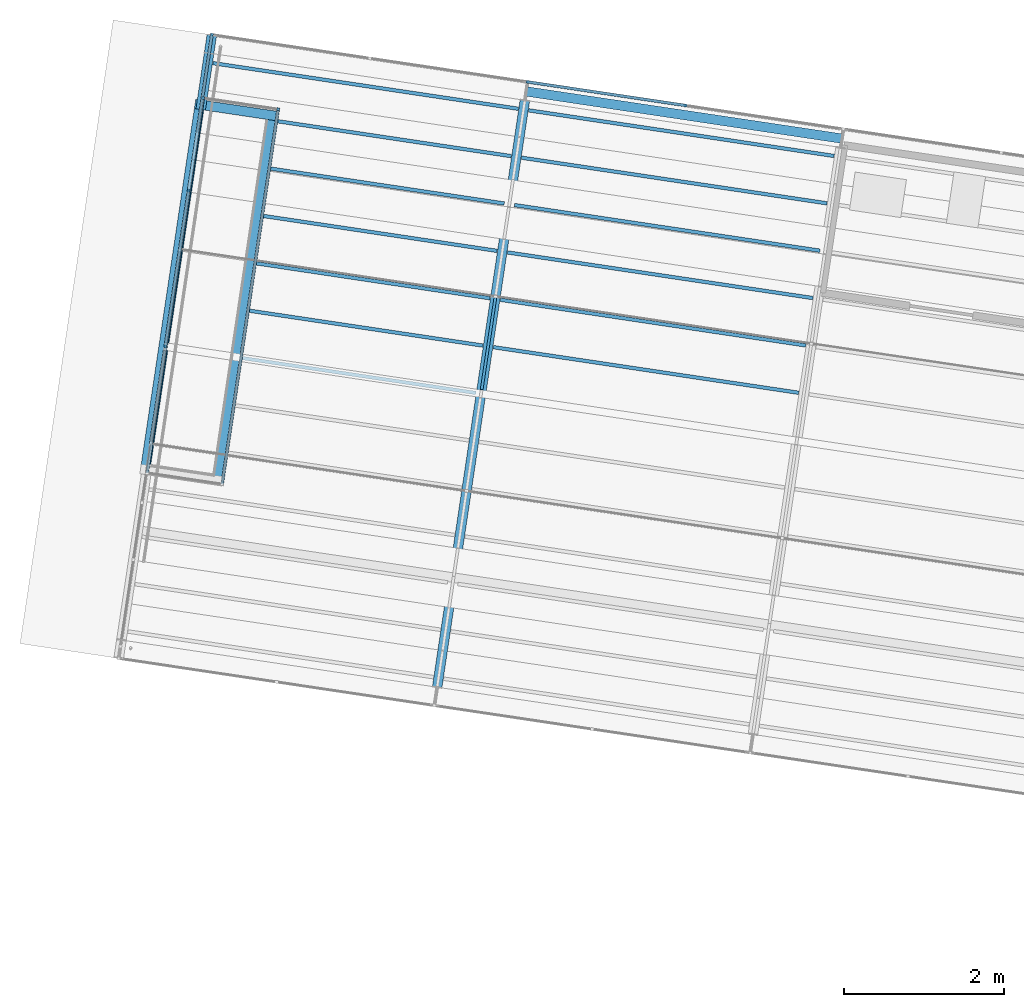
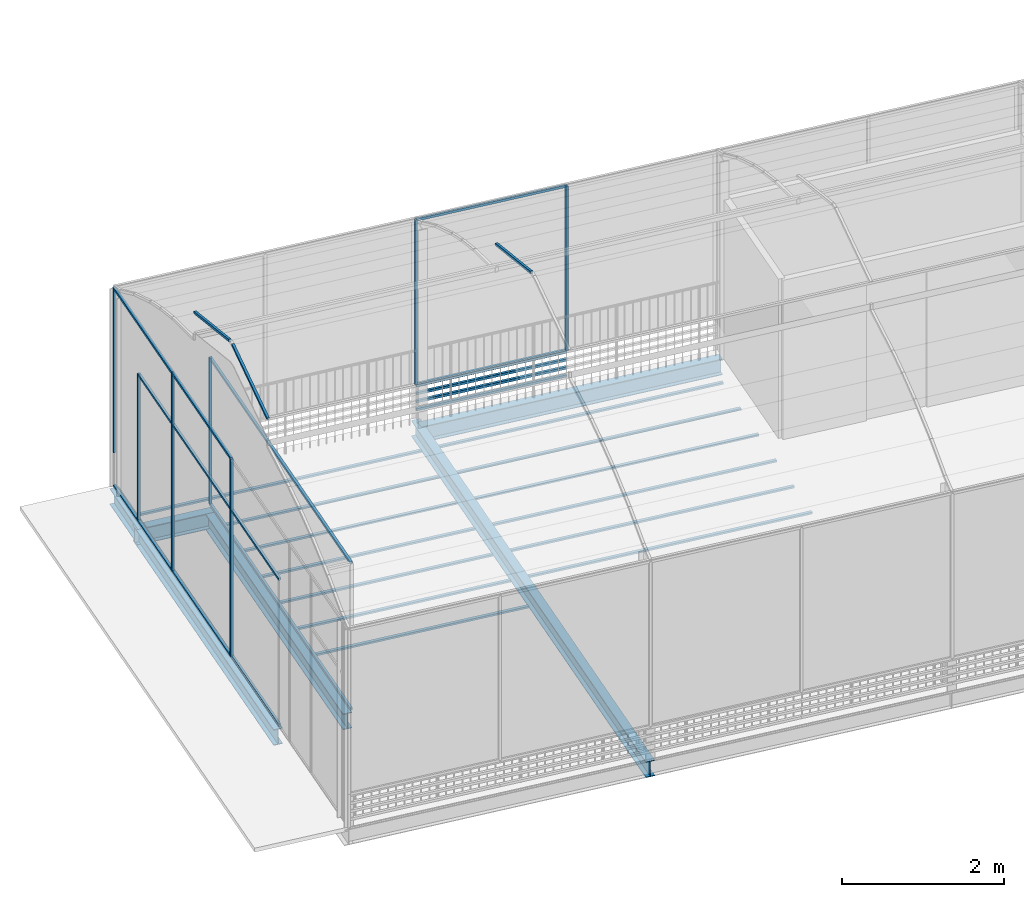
# One storey, part 7 of 34: 30 members, 19 beams, 1 element without a shape of its own.
"""IFC4 building model written with IfcOpenShell, lengths in metres."""

from ifc_helpers import new_model, si_unit, direction, frame, origin_with_axes, place, context, subcontext, project, spatial, polyline, rectangle, i_section, outline, extrude, material, material_profile, profile_set, profile_usage, type_object, element, aggregate, save


model = new_model("IFC4")

# Units and contexts
model_context = context("Model", 3, precision=1e-05, world=origin_with_axes(), true_north=direction((0.0, 1.0)))
body_context = subcontext(model_context, "Body", "Model", "MODEL_VIEW")
ifc_project = project(units=[si_unit("AREAUNIT", "SQUARE_METRE"), si_unit("VOLUMEUNIT", "CUBIC_METRE"), si_unit("LENGTHUNIT", "METRE")], contexts=[model_context])

# Site, building, storey
site_placement = place(None, origin_with_axes())
site = spatial("IfcSite", under=ifc_project, at=site_placement, Name="Lares · Rua das Mercês · artigo 4771")
building_placement = place(site_placement, frame((15.0, 9.7, 14.65), z_axis=(0.0, 0.0, 1.0), x_axis=(0.989015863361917, -0.147809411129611, 0.0)))
building = spatial("IfcBuilding", under=site, at=building_placement, Name="Casa Sobreposta")
storey_placement = place(building_placement, frame((0.0, 0.0, 3.24), z_axis=(0.0, 0.0, 1.0), x_axis=(1.0, 0.0, 0.0)))
storey = spatial("IfcBuildingStorey", under=building, at=storey_placement, Name="01 · Jardim de inverno", Elevation=17.89)

# Beams
ifc_material_1 = material(Name="Aço pintado / Stahl lackiert", Category="steel")
ifc_material_profile_1 = material_profile(ifc_material_1, i_section(OverallWidth=0.12, OverallDepth=0.24, WebThickness=0.0062, FlangeThickness=0.0098))
ifc_profile_set_1 = profile_set([ifc_material_profile_1], Name="IPE240")
ifc_profile_usage_1 = profile_usage(ifc_profile_set_1)
beam_type = type_object("IfcBeamType", Name="IPE240 / steel", PredefinedType="NOTDEFINED", material=ifc_profile_set_1)
beam_1_placement = place(storey_placement, frame((4.0, 6.28, -0.152), z_axis=(1.0, 0.0, 0.0), x_axis=(0.0, -1.0, 0.0)))
element("IfcBeam", 1, at=beam_1_placement, inside=storey, type_object=beam_type, material=ifc_profile_usage_1, Name="Viga longitudinal 4 / 6.28", context=body_context, shape_type="SweptSolid", body=[
    extrude(i_section(OverallWidth=0.12, OverallDepth=0.24, WebThickness=0.0062, FlangeThickness=0.0098), origin_with_axes(), (0.0, 0.0, 1.0), 4.0),
])
ifc_profile_usage_2 = profile_usage(ifc_profile_set_1)
beam_2_placement = place(storey_placement, frame((0.0, 5.4525, -0.152), z_axis=(0.0, 1.0, 0.0), x_axis=(1.0, 0.0, 0.0)))
element("IfcBeam", 2, at=beam_2_placement, inside=storey, type_object=beam_type, material=ifc_profile_usage_2, Name="Viga transversal eixo 0", context=body_context, shape_type="SweptSolid", body=[
    extrude(i_section(OverallWidth=0.12, OverallDepth=0.24, WebThickness=0.0062, FlangeThickness=0.0098), origin_with_axes(), (0.0, 0.0, 1.0), 0.947500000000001),
])
ifc_profile_usage_3 = profile_usage(ifc_profile_set_1)
beam_3_placement = place(storey_placement, frame((4.0, -1.5, -0.152), z_axis=(0.0, 1.0, 0.0), x_axis=(1.0, 0.0, 0.0)))
element("IfcBeam", 3, at=beam_3_placement, inside=storey, type_object=beam_type, material=ifc_profile_usage_3, Name="Viga transversal eixo 4", context=body_context, shape_type="SweptSolid", body=[
    extrude(i_section(OverallWidth=0.12, OverallDepth=0.24, WebThickness=0.0062, FlangeThickness=0.0098), origin_with_axes(), (0.0, 0.0, 1.0), 7.9),
])
ifc_profile_usage_4 = profile_usage(ifc_profile_set_1)
beam_4_placement = place(storey_placement, frame((-0.02, 0.8275, -0.152), z_axis=(0.0, 1.0, 0.0), x_axis=(1.0, 0.0, 0.0)))
element("IfcBeam", 4, at=beam_4_placement, inside=storey, type_object=beam_type, material=ifc_profile_usage_4, Name="Longarina do vão 1", context=body_context, shape_type="SweptSolid", body=[
    extrude(i_section(OverallWidth=0.12, OverallDepth=0.24, WebThickness=0.0062, FlangeThickness=0.0098), origin_with_axes(), (0.0, 0.0, 1.0), 4.745),
])
ifc_profile_usage_5 = profile_usage(ifc_profile_set_1)
beam_5_placement = place(storey_placement, frame((0.9, 0.8275, -0.152), z_axis=(0.0, 1.0, 0.0), x_axis=(1.0, 0.0, 0.0)))
element("IfcBeam", 5, at=beam_5_placement, inside=storey, type_object=beam_type, material=ifc_profile_usage_5, Name="Longarina do vão 1", context=body_context, shape_type="SweptSolid", body=[
    extrude(i_section(OverallWidth=0.12, OverallDepth=0.24, WebThickness=0.0062, FlangeThickness=0.0098), origin_with_axes(), (0.0, 0.0, 1.0), 4.745),
])
ifc_profile_usage_6 = profile_usage(ifc_profile_set_1)
beam_6_placement = place(storey_placement, frame((-0.08, 5.5125, -0.152), z_axis=(1.0, 0.0, 0.0), x_axis=(0.0, -1.0, 0.0)))
element("IfcBeam", 6, at=beam_6_placement, inside=storey, type_object=beam_type, material=ifc_profile_usage_6, Name="Cabeceira do vão 1", context=body_context, shape_type="SweptSolid", body=[
    extrude(i_section(OverallWidth=0.12, OverallDepth=0.24, WebThickness=0.0062, FlangeThickness=0.0098), origin_with_axes(), (0.0, 0.0, 1.0), 1.04),
])

# Members
ifc_material_profile_2 = material_profile(ifc_material_1, rectangle(XDim=0.035, YDim=0.035))
ifc_profile_set_2 = profile_set([ifc_material_profile_2], Name="R0.035")
ifc_profile_usage_7 = profile_usage(ifc_profile_set_2)
member_type = type_object("IfcMemberType", Name="R0.035 / steel", PredefinedType="NOTDEFINED", material=ifc_profile_set_2)
member_1_placement = place(storey_placement, frame((0.0, 6.4, 0.5), z_axis=(0.0, 0.0, 1.0), x_axis=(1.0, 0.0, 0.0)))
element("IfcMember", 7, at=member_1_placement, inside=storey, type_object=member_type, material=ifc_profile_usage_7, Name="Estufa norte 1 · montante", context=body_context, shape_type="SweptSolid", body=[
    extrude(rectangle(XDim=0.035, YDim=0.035), origin_with_axes(), (0.0, 0.0, 1.0), 2.48),
])
ifc_profile_usage_8 = profile_usage(ifc_profile_set_2)
member_2_placement = place(storey_placement, frame((4.0, 6.4, 0.5), z_axis=(0.0, 0.0, 1.0), x_axis=(1.0, 0.0, 0.0)))
element("IfcMember", 8, at=member_2_placement, inside=storey, type_object=member_type, material=ifc_profile_usage_8, context=body_context, shape_type="SweptSolid", body=[
    extrude(rectangle(XDim=0.035, YDim=0.035), origin_with_axes(), (0.0, 0.0, 1.0), 2.48),
])
ifc_profile_usage_9 = profile_usage(ifc_profile_set_2)
member_3_placement = place(storey_placement, frame((4.0, 6.4, 0.5), z_axis=(0.0, 0.0, 1.0), x_axis=(1.0, 0.0, 0.0)))
element("IfcMember", 9, at=member_3_placement, inside=storey, type_object=member_type, material=ifc_profile_usage_9, context=body_context, shape_type="SweptSolid", body=[
    extrude(rectangle(XDim=0.035, YDim=0.035), origin_with_axes(), (0.0, 0.0, 1.0), 2.48),
])
ifc_profile_usage_10 = profile_usage(ifc_profile_set_2)
member_4_placement = place(storey_placement, frame((6.0, 6.4, 0.5), z_axis=(0.0, 0.0, 1.0), x_axis=(1.0, 0.0, 0.0)))
element("IfcMember", 10, at=member_4_placement, inside=storey, type_object=member_type, material=ifc_profile_usage_10, context=body_context, shape_type="SweptSolid", body=[
    extrude(rectangle(XDim=0.035, YDim=0.035), origin_with_axes(), (0.0, 0.0, 1.0), 2.48),
])
ifc_profile_usage_11 = profile_usage(ifc_profile_set_2)
member_5_placement = place(storey_placement, frame((4.0, 6.4, 0.5), z_axis=(1.0, 0.0, 0.0), x_axis=(0.0, -1.0, 0.0)))
element("IfcMember", 11, at=member_5_placement, inside=storey, type_object=member_type, material=ifc_profile_usage_11, Name="Estufa norte 3 · travessa", context=body_context, shape_type="SweptSolid", body=[
    extrude(rectangle(XDim=0.035, YDim=0.035), origin_with_axes(), (0.0, 0.0, 1.0), 2.0),
])
ifc_profile_usage_12 = profile_usage(ifc_profile_set_2)
member_6_placement = place(storey_placement, frame((4.0, 6.4, 2.98), z_axis=(1.0, 0.0, 0.0), x_axis=(0.0, -1.0, 0.0)))
element("IfcMember", 12, at=member_6_placement, inside=storey, type_object=member_type, material=ifc_profile_usage_12, Name="Estufa norte 3 · travessa", context=body_context, shape_type="SweptSolid", body=[
    extrude(rectangle(XDim=0.035, YDim=0.035), origin_with_axes(), (0.0, 0.0, 1.0), 2.0),
])
ifc_profile_usage_13 = profile_usage(ifc_profile_set_2)
member_7_placement = place(storey_placement, frame((4.0, 6.4, 0.12), z_axis=(1.0, 0.0, 0.0), x_axis=(0.0, -1.0, 0.0)))
element("IfcMember", 13, at=member_7_placement, inside=storey, type_object=member_type, material=ifc_profile_usage_13, Name="Entrada de ar norte 3", context=body_context, shape_type="SweptSolid", body=[
    extrude(rectangle(XDim=0.035, YDim=0.035), origin_with_axes(), (0.0, 0.0, 1.0), 2.0),
])
ifc_profile_usage_14 = profile_usage(ifc_profile_set_2)
member_8_placement = place(storey_placement, frame((4.0, 6.4, 0.24), z_axis=(1.0, 0.0, 0.0), x_axis=(0.0, -1.0, 0.0)))
element("IfcMember", 14, at=member_8_placement, inside=storey, type_object=member_type, material=ifc_profile_usage_14, Name="Entrada de ar norte 3", context=body_context, shape_type="SweptSolid", body=[
    extrude(rectangle(XDim=0.035, YDim=0.035), origin_with_axes(), (0.0, 0.0, 1.0), 2.0),
])
ifc_profile_usage_15 = profile_usage(ifc_profile_set_2)
member_9_placement = place(storey_placement, frame((4.0, 6.4, 0.36), z_axis=(1.0, 0.0, 0.0), x_axis=(0.0, -1.0, 0.0)))
element("IfcMember", 15, at=member_9_placement, inside=storey, type_object=member_type, material=ifc_profile_usage_15, Name="Entrada de ar norte 3", context=body_context, shape_type="SweptSolid", body=[
    extrude(rectangle(XDim=0.035, YDim=0.035), origin_with_axes(), (0.0, 0.0, 1.0), 2.0),
])
ifc_profile_usage_16 = profile_usage(ifc_profile_set_2)
member_10_placement = place(storey_placement, frame((4.0, 6.4, 0.48), z_axis=(1.0, 0.0, 0.0), x_axis=(0.0, -1.0, 0.0)))
element("IfcMember", 16, at=member_10_placement, inside=storey, type_object=member_type, material=ifc_profile_usage_16, Name="Entrada de ar norte 3", context=body_context, shape_type="SweptSolid", body=[
    extrude(rectangle(XDim=0.035, YDim=0.035), origin_with_axes(), (0.0, 0.0, 1.0), 2.0),
])
ifc_profile_usage_17 = profile_usage(ifc_profile_set_2)
member_11_placement = place(storey_placement, frame((6.0, 6.4, 0.5), z_axis=(0.0, 0.0, 1.0), x_axis=(1.0, 0.0, 0.0)))
element("IfcMember", 17, at=member_11_placement, inside=storey, type_object=member_type, material=ifc_profile_usage_17, context=body_context, shape_type="SweptSolid", body=[
    extrude(rectangle(XDim=0.035, YDim=0.035), origin_with_axes(), (0.0, 0.0, 1.0), 2.48),
])
ifc_profile_usage_18 = profile_usage(ifc_profile_set_2)
member_12_placement = place(storey_placement, frame((0.0, 2.45, 0.0), z_axis=(0.0, 0.0, 1.0), x_axis=(1.0, 0.0, 0.0)))
element("IfcMember", 18, at=member_12_placement, inside=storey, type_object=member_type, material=ifc_profile_usage_18, context=body_context, shape_type="SweptSolid", body=[
    extrude(rectangle(XDim=0.035, YDim=0.035), origin_with_axes(), (0.0, 0.0, 1.0), 2.98),
])
ifc_profile_usage_19 = profile_usage(ifc_profile_set_2)
member_13_placement = place(storey_placement, frame((0.0, 2.45, 0.0), z_axis=(0.0, 0.0, 1.0), x_axis=(1.0, 0.0, 0.0)))
element("IfcMember", 19, at=member_13_placement, inside=storey, type_object=member_type, material=ifc_profile_usage_19, context=body_context, shape_type="SweptSolid", body=[
    extrude(rectangle(XDim=0.035, YDim=0.035), origin_with_axes(), (0.0, 0.0, 1.0), 2.98),
])
ifc_profile_usage_20 = profile_usage(ifc_profile_set_2)
member_14_placement = place(storey_placement, frame((0.0, 4.425, 0.0), z_axis=(0.0, 0.0, 1.0), x_axis=(1.0, 0.0, 0.0)))
element("IfcMember", 20, at=member_14_placement, inside=storey, type_object=member_type, material=ifc_profile_usage_20, context=body_context, shape_type="SweptSolid", body=[
    extrude(rectangle(XDim=0.035, YDim=0.035), origin_with_axes(), (0.0, 0.0, 1.0), 2.98),
])
ifc_profile_usage_21 = profile_usage(ifc_profile_set_2)
member_15_placement = place(storey_placement, frame((0.0, 2.45, 0.0), z_axis=(0.0, 1.0, 0.0), x_axis=(1.0, 0.0, 0.0)))
element("IfcMember", 21, at=member_15_placement, inside=storey, type_object=member_type, material=ifc_profile_usage_21, Name="Estufa poente 3 · travessa", context=body_context, shape_type="SweptSolid", body=[
    extrude(rectangle(XDim=0.035, YDim=0.035), origin_with_axes(), (0.0, 0.0, 1.0), 1.975),
])
ifc_profile_usage_22 = profile_usage(ifc_profile_set_2)
member_16_placement = place(storey_placement, frame((0.0, 2.45, 2.98), z_axis=(0.0, 1.0, 0.0), x_axis=(1.0, 0.0, 0.0)))
element("IfcMember", 22, at=member_16_placement, inside=storey, type_object=member_type, material=ifc_profile_usage_22, Name="Estufa poente 3 · travessa", context=body_context, shape_type="SweptSolid", body=[
    extrude(rectangle(XDim=0.035, YDim=0.035), origin_with_axes(), (0.0, 0.0, 1.0), 1.975),
])
ifc_profile_usage_23 = profile_usage(ifc_profile_set_2)
member_17_placement = place(storey_placement, frame((0.0, 4.425, 0.0), z_axis=(0.0, 0.0, 1.0), x_axis=(1.0, 0.0, 0.0)))
element("IfcMember", 23, at=member_17_placement, inside=storey, type_object=member_type, material=ifc_profile_usage_23, context=body_context, shape_type="SweptSolid", body=[
    extrude(rectangle(XDim=0.035, YDim=0.035), origin_with_axes(), (0.0, 0.0, 1.0), 2.98),
])
ifc_profile_usage_24 = profile_usage(ifc_profile_set_2)
member_18_placement = place(storey_placement, frame((0.0, 4.425, 0.0), z_axis=(0.0, 1.0, 0.0), x_axis=(1.0, 0.0, 0.0)))
element("IfcMember", 24, at=member_18_placement, inside=storey, type_object=member_type, material=ifc_profile_usage_24, Name="Estufa poente 4 · travessa", context=body_context, shape_type="SweptSolid", body=[
    extrude(rectangle(XDim=0.035, YDim=0.035), origin_with_axes(), (0.0, 0.0, 1.0), 1.975),
])
ifc_profile_usage_25 = profile_usage(ifc_profile_set_2)
member_19_placement = place(storey_placement, frame((0.0, 4.425, 2.98), z_axis=(0.0, 1.0, 0.0), x_axis=(1.0, 0.0, 0.0)))
element("IfcMember", 25, at=member_19_placement, inside=storey, type_object=member_type, material=ifc_profile_usage_25, Name="Estufa poente 4 · travessa", context=body_context, shape_type="SweptSolid", body=[
    extrude(rectangle(XDim=0.035, YDim=0.035), origin_with_axes(), (0.0, 0.0, 1.0), 1.975),
])

# Roof, members
ifc_material_2 = material(Name="Vidro / Normalglas", Category="glass")
roof_placement = place(storey_placement, frame((0.0, 0.0, -3.24), z_axis=(0.0, 0.0, 1.0), x_axis=(1.0, 0.0, 0.0)))
roof = element("IfcRoof", 26, at=roof_placement, inside=storey, material=ifc_material_2, Name="Cobertura translúcida da estufa", PredefinedType="BARREL_ROOF")
ifc_profile_usage_26 = profile_usage(ifc_profile_set_2)
member_20_placement = place(roof_placement, frame((0.0, 1.22042020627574, 7.62067689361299), z_axis=(0.0, 0.960073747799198, 0.279747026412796), x_axis=(1.0, 0.0, 0.0)))
member_20 = element("IfcMember", 27, at=member_20_placement, type_object=member_type, material=ifc_profile_usage_26, Name="Arco estufa 0/7", context=body_context, shape_type="SweptSolid", body=[
    extrude(rectangle(XDim=0.035, YDim=0.035), origin_with_axes(), (0.0, 0.0, 1.0), 1.23148937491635),
])
ifc_profile_usage_27 = profile_usage(ifc_profile_set_2)
member_21_placement = place(roof_placement, frame((0.0, 2.49770027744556, 7.96518238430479), z_axis=(0.0, 0.96007374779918, -0.279747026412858), x_axis=(1.0, 0.0, 0.0)))
member_21 = element("IfcMember", 28, at=member_21_placement, type_object=member_type, material=ifc_profile_usage_27, Name="Arco estufa 0/9", context=body_context, shape_type="SweptSolid", body=[
    extrude(rectangle(XDim=0.035, YDim=0.035), origin_with_axes(), (0.0, 0.0, 1.0), 1.23148937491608),
])
ifc_profile_usage_28 = profile_usage(ifc_profile_set_2)
member_22_placement = place(roof_placement, frame((4.0, 2.49770027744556, 7.96518238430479), z_axis=(0.0, 0.96007374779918, -0.279747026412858), x_axis=(1.0, 0.0, 0.0)))
member_22 = element("IfcMember", 29, at=member_22_placement, type_object=member_type, material=ifc_profile_usage_28, Name="Arco estufa 4/9", context=body_context, shape_type="SweptSolid", body=[
    extrude(rectangle(XDim=0.035, YDim=0.035), origin_with_axes(), (0.0, 0.0, 1.0), 1.23148937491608),
])
aggregate(roof, [member_20, member_21, member_22])

# Members
ifc_profile_usage_29 = profile_usage(ifc_profile_set_2)
member_23_placement = place(storey_placement, frame((0.01, 5.6, 0.0), z_axis=(0.0, 0.0, 1.0), x_axis=(1.0, 0.0, 0.0)))
element("IfcMember", 30, at=member_23_placement, inside=storey, type_object=member_type, material=ifc_profile_usage_29, context=body_context, shape_type="SweptSolid", body=[
    extrude(rectangle(XDim=0.035, YDim=0.035), origin_with_axes(), (0.0, 0.0, 1.0), 2.2),
])
ifc_profile_usage_30 = profile_usage(ifc_profile_set_2)
member_24_placement = place(storey_placement, frame((0.01, 0.85, 0.0), z_axis=(0.0, 1.0, 0.0), x_axis=(1.0, 0.0, 0.0)))
element("IfcMember", 31, at=member_24_placement, inside=storey, type_object=member_type, material=ifc_profile_usage_30, Name="Caixa térmica 1 · west · travessa", context=body_context, shape_type="SweptSolid", body=[
    extrude(rectangle(XDim=0.035, YDim=0.035), origin_with_axes(), (0.0, 0.0, 1.0), 4.75),
])
ifc_profile_usage_31 = profile_usage(ifc_profile_set_2)
member_25_placement = place(storey_placement, frame((0.01, 0.85, 2.2), z_axis=(0.0, 1.0, 0.0), x_axis=(1.0, 0.0, 0.0)))
element("IfcMember", 32, at=member_25_placement, inside=storey, type_object=member_type, material=ifc_profile_usage_31, Name="Caixa térmica 1 · west · travessa", context=body_context, shape_type="SweptSolid", body=[
    extrude(rectangle(XDim=0.035, YDim=0.035), origin_with_axes(), (0.0, 0.0, 1.0), 4.75),
])
ifc_profile_usage_32 = profile_usage(ifc_profile_set_2)
member_26_placement = place(storey_placement, frame((0.96, 5.6, 0.0), z_axis=(0.0, 0.0, 1.0), x_axis=(1.0, 0.0, 0.0)))
element("IfcMember", 33, at=member_26_placement, inside=storey, type_object=member_type, material=ifc_profile_usage_32, context=body_context, shape_type="SweptSolid", body=[
    extrude(rectangle(XDim=0.035, YDim=0.035), origin_with_axes(), (0.0, 0.0, 1.0), 2.2),
])
ifc_profile_usage_33 = profile_usage(ifc_profile_set_2)
member_27_placement = place(storey_placement, frame((0.96, 0.85, 0.0), z_axis=(0.0, 1.0, 0.0), x_axis=(1.0, 0.0, 0.0)))
element("IfcMember", 34, at=member_27_placement, inside=storey, type_object=member_type, material=ifc_profile_usage_33, Name="Caixa térmica 1 · east · travessa", context=body_context, shape_type="SweptSolid", body=[
    extrude(rectangle(XDim=0.035, YDim=0.035), origin_with_axes(), (0.0, 0.0, 1.0), 4.75),
])
ifc_profile_usage_34 = profile_usage(ifc_profile_set_2)
member_28_placement = place(storey_placement, frame((0.96, 0.85, 2.2), z_axis=(0.0, 1.0, 0.0), x_axis=(1.0, 0.0, 0.0)))
element("IfcMember", 35, at=member_28_placement, inside=storey, type_object=member_type, material=ifc_profile_usage_34, Name="Caixa térmica 1 · east · travessa", context=body_context, shape_type="SweptSolid", body=[
    extrude(rectangle(XDim=0.035, YDim=0.035), origin_with_axes(), (0.0, 0.0, 1.0), 4.75),
])
ifc_profile_usage_35 = profile_usage(ifc_profile_set_2)
member_29_placement = place(storey_placement, frame((0.01, 5.6, 0.0), z_axis=(0.0, 0.0, 1.0), x_axis=(1.0, 0.0, 0.0)))
element("IfcMember", 36, at=member_29_placement, inside=storey, type_object=member_type, material=ifc_profile_usage_35, context=body_context, shape_type="SweptSolid", body=[
    extrude(rectangle(XDim=0.035, YDim=0.035), origin_with_axes(), (0.0, 0.0, 1.0), 2.2),
])
ifc_profile_usage_36 = profile_usage(ifc_profile_set_2)
member_30_placement = place(storey_placement, frame((0.96, 5.6, 0.0), z_axis=(0.0, 0.0, 1.0), x_axis=(1.0, 0.0, 0.0)))
element("IfcMember", 37, at=member_30_placement, inside=storey, type_object=member_type, material=ifc_profile_usage_36, context=body_context, shape_type="SweptSolid", body=[
    extrude(rectangle(XDim=0.035, YDim=0.035), origin_with_axes(), (0.0, 0.0, 1.0), 2.2),
])

# Beams
ifc_material_3 = material(Name="Madeira / Bauholz", Category="wood")
ifc_material_profile_3 = material_profile(ifc_material_3, outline(polyline([(0.022225, -0.12), (0.022225, -0.092), (-0.022225, -0.092), (-0.022225, -0.12), (0.022225, -0.12)])))
ifc_material_4 = material(Name="OSB", Category="wood")
ifc_material_profile_4 = material_profile(ifc_material_4, outline(polyline([(0.0047625, -0.092), (0.0047625, 0.092), (-0.0047625, 0.092), (-0.0047625, -0.092), (0.0047625, -0.092)])))
ifc_material_profile_5 = material_profile(ifc_material_3, outline(polyline([(0.022225, 0.092), (0.022225, 0.12), (-0.022225, 0.12), (-0.022225, 0.092), (0.022225, 0.092)])))
ifc_profile_set_3 = profile_set([ifc_material_profile_3, ifc_material_profile_4, ifc_material_profile_5], Name="TJI240 · madeira / OSB")
ifc_profile_usage_37 = profile_usage(ifc_profile_set_3)
beam_7_placement = place(storey_placement, frame((0.97, 2.45, -0.152), z_axis=(1.0, 0.0, 0.0), x_axis=(0.0, 1.0, 0.0)))
element("IfcBeam", 38, at=beam_7_placement, inside=storey, material=ifc_profile_usage_37, Name="TJI240 · 0.970 / 2.45", context=body_context, shape_type="SweptSolid", body=[
    extrude(outline(polyline([(0.022225, -0.12), (0.022225, -0.092), (-0.022225, -0.092), (-0.022225, -0.12), (0.022225, -0.12)])), origin_with_axes(), (0.0, 0.0, 1.0), 2.965),
    extrude(outline(polyline([(0.022225, -0.12), (0.022225, -0.092), (-0.022225, -0.092), (-0.022225, -0.12), (0.022225, -0.12)])), origin_with_axes(), (0.0, 0.0, 1.0), 2.965),
    extrude(outline(polyline([(0.022225, -0.12), (0.022225, -0.092), (-0.022225, -0.092), (-0.022225, -0.12), (0.022225, -0.12)])), origin_with_axes(), (0.0, 0.0, 1.0), 2.965),
])
ifc_material_profile_6 = material_profile(ifc_material_3, outline(polyline([(0.022225, -0.12), (0.022225, -0.092), (-0.022225, -0.092), (-0.022225, -0.12), (0.022225, -0.12)])))
ifc_material_profile_7 = material_profile(ifc_material_4, outline(polyline([(0.0047625, -0.092), (0.0047625, 0.092), (-0.0047625, 0.092), (-0.0047625, -0.092), (0.0047625, -0.092)])))
ifc_material_profile_8 = material_profile(ifc_material_3, outline(polyline([(0.022225, 0.092), (0.022225, 0.12), (-0.022225, 0.12), (-0.022225, 0.092), (0.022225, 0.092)])))
ifc_profile_set_4 = profile_set([ifc_material_profile_6, ifc_material_profile_7, ifc_material_profile_8], Name="TJI240 · madeira / OSB")
ifc_profile_usage_38 = profile_usage(ifc_profile_set_4)
beam_8_placement = place(storey_placement, frame((0.97, 3.05, -0.152), z_axis=(1.0, 0.0, 0.0), x_axis=(0.0, 1.0, 0.0)))
element("IfcBeam", 39, at=beam_8_placement, inside=storey, material=ifc_profile_usage_38, Name="TJI240 · 0.970 / 3.05", context=body_context, shape_type="SweptSolid", body=[
    extrude(outline(polyline([(0.022225, -0.12), (0.022225, -0.092), (-0.022225, -0.092), (-0.022225, -0.12), (0.022225, -0.12)])), origin_with_axes(), (0.0, 0.0, 1.0), 2.965),
    extrude(outline(polyline([(0.022225, -0.12), (0.022225, -0.092), (-0.022225, -0.092), (-0.022225, -0.12), (0.022225, -0.12)])), origin_with_axes(), (0.0, 0.0, 1.0), 2.965),
    extrude(outline(polyline([(0.022225, -0.12), (0.022225, -0.092), (-0.022225, -0.092), (-0.022225, -0.12), (0.022225, -0.12)])), origin_with_axes(), (0.0, 0.0, 1.0), 2.965),
])
ifc_material_profile_9 = material_profile(ifc_material_3, outline(polyline([(0.022225, -0.12), (0.022225, -0.092), (-0.022225, -0.092), (-0.022225, -0.12), (0.022225, -0.12)])))
ifc_material_profile_10 = material_profile(ifc_material_4, outline(polyline([(0.0047625, -0.092), (0.0047625, 0.092), (-0.0047625, 0.092), (-0.0047625, -0.092), (0.0047625, -0.092)])))
ifc_material_profile_11 = material_profile(ifc_material_3, outline(polyline([(0.022225, 0.092), (0.022225, 0.12), (-0.022225, 0.12), (-0.022225, 0.092), (0.022225, 0.092)])))
ifc_profile_set_5 = profile_set([ifc_material_profile_9, ifc_material_profile_10, ifc_material_profile_11], Name="TJI240 · madeira / OSB")
ifc_profile_usage_39 = profile_usage(ifc_profile_set_5)
beam_9_placement = place(storey_placement, frame((4.065, 3.05, -0.152), z_axis=(1.0, 0.0, 0.0), x_axis=(0.0, 1.0, 0.0)))
element("IfcBeam", 40, at=beam_9_placement, inside=storey, material=ifc_profile_usage_39, Name="TJI240 · 4.065 / 3.05", context=body_context, shape_type="SweptSolid", body=[
    extrude(outline(polyline([(0.022225, -0.12), (0.022225, -0.092), (-0.022225, -0.092), (-0.022225, -0.12), (0.022225, -0.12)])), origin_with_axes(), (0.0, 0.0, 1.0), 3.87),
    extrude(outline(polyline([(0.022225, -0.12), (0.022225, -0.092), (-0.022225, -0.092), (-0.022225, -0.12), (0.022225, -0.12)])), origin_with_axes(), (0.0, 0.0, 1.0), 3.87),
    extrude(outline(polyline([(0.022225, -0.12), (0.022225, -0.092), (-0.022225, -0.092), (-0.022225, -0.12), (0.022225, -0.12)])), origin_with_axes(), (0.0, 0.0, 1.0), 3.87),
])
ifc_material_profile_12 = material_profile(ifc_material_3, outline(polyline([(0.022225, -0.12), (0.022225, -0.092), (-0.022225, -0.092), (-0.022225, -0.12), (0.022225, -0.12)])))
ifc_material_profile_13 = material_profile(ifc_material_4, outline(polyline([(0.0047625, -0.092), (0.0047625, 0.092), (-0.0047625, 0.092), (-0.0047625, -0.092), (0.0047625, -0.092)])))
ifc_material_profile_14 = material_profile(ifc_material_3, outline(polyline([(0.022225, 0.092), (0.022225, 0.12), (-0.022225, 0.12), (-0.022225, 0.092), (0.022225, 0.092)])))
ifc_profile_set_6 = profile_set([ifc_material_profile_12, ifc_material_profile_13, ifc_material_profile_14], Name="TJI240 · madeira / OSB")
ifc_profile_usage_40 = profile_usage(ifc_profile_set_6)
beam_10_placement = place(storey_placement, frame((0.97, 3.65, -0.152), z_axis=(1.0, 0.0, 0.0), x_axis=(0.0, 1.0, 0.0)))
element("IfcBeam", 41, at=beam_10_placement, inside=storey, material=ifc_profile_usage_40, Name="TJI240 · 0.970 / 3.65", context=body_context, shape_type="SweptSolid", body=[
    extrude(outline(polyline([(0.022225, -0.12), (0.022225, -0.092), (-0.022225, -0.092), (-0.022225, -0.12), (0.022225, -0.12)])), origin_with_axes(), (0.0, 0.0, 1.0), 2.965),
    extrude(outline(polyline([(0.022225, -0.12), (0.022225, -0.092), (-0.022225, -0.092), (-0.022225, -0.12), (0.022225, -0.12)])), origin_with_axes(), (0.0, 0.0, 1.0), 2.965),
    extrude(outline(polyline([(0.022225, -0.12), (0.022225, -0.092), (-0.022225, -0.092), (-0.022225, -0.12), (0.022225, -0.12)])), origin_with_axes(), (0.0, 0.0, 1.0), 2.965),
])
ifc_material_profile_15 = material_profile(ifc_material_3, outline(polyline([(0.022225, -0.12), (0.022225, -0.092), (-0.022225, -0.092), (-0.022225, -0.12), (0.022225, -0.12)])))
ifc_material_profile_16 = material_profile(ifc_material_4, outline(polyline([(0.0047625, -0.092), (0.0047625, 0.092), (-0.0047625, 0.092), (-0.0047625, -0.092), (0.0047625, -0.092)])))
ifc_material_profile_17 = material_profile(ifc_material_3, outline(polyline([(0.022225, 0.092), (0.022225, 0.12), (-0.022225, 0.12), (-0.022225, 0.092), (0.022225, 0.092)])))
ifc_profile_set_7 = profile_set([ifc_material_profile_15, ifc_material_profile_16, ifc_material_profile_17], Name="TJI240 · madeira / OSB")
ifc_profile_usage_41 = profile_usage(ifc_profile_set_7)
beam_11_placement = place(storey_placement, frame((4.065, 3.65, -0.152), z_axis=(1.0, 0.0, 0.0), x_axis=(0.0, 1.0, 0.0)))
element("IfcBeam", 42, at=beam_11_placement, inside=storey, material=ifc_profile_usage_41, Name="TJI240 · 4.065 / 3.65", context=body_context, shape_type="SweptSolid", body=[
    extrude(outline(polyline([(0.022225, -0.12), (0.022225, -0.092), (-0.022225, -0.092), (-0.022225, -0.12), (0.022225, -0.12)])), origin_with_axes(), (0.0, 0.0, 1.0), 3.87),
    extrude(outline(polyline([(0.022225, -0.12), (0.022225, -0.092), (-0.022225, -0.092), (-0.022225, -0.12), (0.022225, -0.12)])), origin_with_axes(), (0.0, 0.0, 1.0), 3.87),
    extrude(outline(polyline([(0.022225, -0.12), (0.022225, -0.092), (-0.022225, -0.092), (-0.022225, -0.12), (0.022225, -0.12)])), origin_with_axes(), (0.0, 0.0, 1.0), 3.87),
])
ifc_material_profile_18 = material_profile(ifc_material_3, outline(polyline([(0.022225, -0.12), (0.022225, -0.092), (-0.022225, -0.092), (-0.022225, -0.12), (0.022225, -0.12)])))
ifc_material_profile_19 = material_profile(ifc_material_4, outline(polyline([(0.0047625, -0.092), (0.0047625, 0.092), (-0.0047625, 0.092), (-0.0047625, -0.092), (0.0047625, -0.092)])))
ifc_material_profile_20 = material_profile(ifc_material_3, outline(polyline([(0.022225, 0.092), (0.022225, 0.12), (-0.022225, 0.12), (-0.022225, 0.092), (0.022225, 0.092)])))
ifc_profile_set_8 = profile_set([ifc_material_profile_18, ifc_material_profile_19, ifc_material_profile_20], Name="TJI240 · madeira / OSB")
ifc_profile_usage_42 = profile_usage(ifc_profile_set_8)
beam_12_placement = place(storey_placement, frame((0.97, 4.25, -0.152), z_axis=(1.0, 0.0, 0.0), x_axis=(0.0, 1.0, 0.0)))
element("IfcBeam", 43, at=beam_12_placement, inside=storey, material=ifc_profile_usage_42, Name="TJI240 · 0.970 / 4.25", context=body_context, shape_type="SweptSolid", body=[
    extrude(outline(polyline([(0.022225, -0.12), (0.022225, -0.092), (-0.022225, -0.092), (-0.022225, -0.12), (0.022225, -0.12)])), origin_with_axes(), (0.0, 0.0, 1.0), 2.965),
    extrude(outline(polyline([(0.022225, -0.12), (0.022225, -0.092), (-0.022225, -0.092), (-0.022225, -0.12), (0.022225, -0.12)])), origin_with_axes(), (0.0, 0.0, 1.0), 2.965),
    extrude(outline(polyline([(0.022225, -0.12), (0.022225, -0.092), (-0.022225, -0.092), (-0.022225, -0.12), (0.022225, -0.12)])), origin_with_axes(), (0.0, 0.0, 1.0), 2.965),
])
ifc_material_profile_21 = material_profile(ifc_material_3, outline(polyline([(0.022225, -0.12), (0.022225, -0.092), (-0.022225, -0.092), (-0.022225, -0.12), (0.022225, -0.12)])))
ifc_material_profile_22 = material_profile(ifc_material_4, outline(polyline([(0.0047625, -0.092), (0.0047625, 0.092), (-0.0047625, 0.092), (-0.0047625, -0.092), (0.0047625, -0.092)])))
ifc_material_profile_23 = material_profile(ifc_material_3, outline(polyline([(0.022225, 0.092), (0.022225, 0.12), (-0.022225, 0.12), (-0.022225, 0.092), (0.022225, 0.092)])))
ifc_profile_set_9 = profile_set([ifc_material_profile_21, ifc_material_profile_22, ifc_material_profile_23], Name="TJI240 · madeira / OSB")
ifc_profile_usage_43 = profile_usage(ifc_profile_set_9)
beam_13_placement = place(storey_placement, frame((4.065, 4.25, -0.152), z_axis=(1.0, 0.0, 0.0), x_axis=(0.0, 1.0, 0.0)))
element("IfcBeam", 44, at=beam_13_placement, inside=storey, material=ifc_profile_usage_43, Name="TJI240 · 4.065 / 4.25", context=body_context, shape_type="SweptSolid", body=[
    extrude(outline(polyline([(0.022225, -0.12), (0.022225, -0.092), (-0.022225, -0.092), (-0.022225, -0.12), (0.022225, -0.12)])), origin_with_axes(), (0.0, 0.0, 1.0), 3.87),
    extrude(outline(polyline([(0.022225, -0.12), (0.022225, -0.092), (-0.022225, -0.092), (-0.022225, -0.12), (0.022225, -0.12)])), origin_with_axes(), (0.0, 0.0, 1.0), 3.87),
    extrude(outline(polyline([(0.022225, -0.12), (0.022225, -0.092), (-0.022225, -0.092), (-0.022225, -0.12), (0.022225, -0.12)])), origin_with_axes(), (0.0, 0.0, 1.0), 3.87),
])
ifc_material_profile_24 = material_profile(ifc_material_3, outline(polyline([(0.022225, -0.12), (0.022225, -0.092), (-0.022225, -0.092), (-0.022225, -0.12), (0.022225, -0.12)])))
ifc_material_profile_25 = material_profile(ifc_material_4, outline(polyline([(0.0047625, -0.092), (0.0047625, 0.092), (-0.0047625, 0.092), (-0.0047625, -0.092), (0.0047625, -0.092)])))
ifc_material_profile_26 = material_profile(ifc_material_3, outline(polyline([(0.022225, 0.092), (0.022225, 0.12), (-0.022225, 0.12), (-0.022225, 0.092), (0.022225, 0.092)])))
ifc_profile_set_10 = profile_set([ifc_material_profile_24, ifc_material_profile_25, ifc_material_profile_26], Name="TJI240 · madeira / OSB")
ifc_profile_usage_44 = profile_usage(ifc_profile_set_10)
beam_14_placement = place(storey_placement, frame((0.97, 4.85, -0.152), z_axis=(1.0, 0.0, 0.0), x_axis=(0.0, 1.0, 0.0)))
element("IfcBeam", 45, at=beam_14_placement, inside=storey, material=ifc_profile_usage_44, Name="TJI240 · 0.970 / 4.85", context=body_context, shape_type="SweptSolid", body=[
    extrude(outline(polyline([(0.022225, -0.12), (0.022225, -0.092), (-0.022225, -0.092), (-0.022225, -0.12), (0.022225, -0.12)])), origin_with_axes(), (0.0, 0.0, 1.0), 2.965),
    extrude(outline(polyline([(0.022225, -0.12), (0.022225, -0.092), (-0.022225, -0.092), (-0.022225, -0.12), (0.022225, -0.12)])), origin_with_axes(), (0.0, 0.0, 1.0), 2.965),
    extrude(outline(polyline([(0.022225, -0.12), (0.022225, -0.092), (-0.022225, -0.092), (-0.022225, -0.12), (0.022225, -0.12)])), origin_with_axes(), (0.0, 0.0, 1.0), 2.965),
])
ifc_material_profile_27 = material_profile(ifc_material_3, outline(polyline([(0.022225, -0.12), (0.022225, -0.092), (-0.022225, -0.092), (-0.022225, -0.12), (0.022225, -0.12)])))
ifc_material_profile_28 = material_profile(ifc_material_4, outline(polyline([(0.0047625, -0.092), (0.0047625, 0.092), (-0.0047625, 0.092), (-0.0047625, -0.092), (0.0047625, -0.092)])))
ifc_material_profile_29 = material_profile(ifc_material_3, outline(polyline([(0.022225, 0.092), (0.022225, 0.12), (-0.022225, 0.12), (-0.022225, 0.092), (0.022225, 0.092)])))
ifc_profile_set_11 = profile_set([ifc_material_profile_27, ifc_material_profile_28, ifc_material_profile_29], Name="TJI240 · madeira / OSB")
ifc_profile_usage_45 = profile_usage(ifc_profile_set_11)
beam_15_placement = place(storey_placement, frame((4.065, 4.85, -0.152), z_axis=(1.0, 0.0, 0.0), x_axis=(0.0, 1.0, 0.0)))
element("IfcBeam", 46, at=beam_15_placement, inside=storey, material=ifc_profile_usage_45, Name="TJI240 · 4.065 / 4.85", context=body_context, shape_type="SweptSolid", body=[
    extrude(outline(polyline([(0.022225, -0.12), (0.022225, -0.092), (-0.022225, -0.092), (-0.022225, -0.12), (0.022225, -0.12)])), origin_with_axes(), (0.0, 0.0, 1.0), 3.87),
    extrude(outline(polyline([(0.022225, -0.12), (0.022225, -0.092), (-0.022225, -0.092), (-0.022225, -0.12), (0.022225, -0.12)])), origin_with_axes(), (0.0, 0.0, 1.0), 3.87),
    extrude(outline(polyline([(0.022225, -0.12), (0.022225, -0.092), (-0.022225, -0.092), (-0.022225, -0.12), (0.022225, -0.12)])), origin_with_axes(), (0.0, 0.0, 1.0), 3.87),
])
ifc_material_profile_30 = material_profile(ifc_material_3, outline(polyline([(0.022225, -0.12), (0.022225, -0.092), (-0.022225, -0.092), (-0.022225, -0.12), (0.022225, -0.12)])))
ifc_material_profile_31 = material_profile(ifc_material_4, outline(polyline([(0.0047625, -0.092), (0.0047625, 0.092), (-0.0047625, 0.092), (-0.0047625, -0.092), (0.0047625, -0.092)])))
ifc_material_profile_32 = material_profile(ifc_material_3, outline(polyline([(0.022225, 0.092), (0.022225, 0.12), (-0.022225, 0.12), (-0.022225, 0.092), (0.022225, 0.092)])))
ifc_profile_set_12 = profile_set([ifc_material_profile_30, ifc_material_profile_31, ifc_material_profile_32], Name="TJI240 · madeira / OSB")
ifc_profile_usage_46 = profile_usage(ifc_profile_set_12)
beam_16_placement = place(storey_placement, frame((0.97, 5.45, -0.152), z_axis=(1.0, 0.0, 0.0), x_axis=(0.0, 1.0, 0.0)))
element("IfcBeam", 47, at=beam_16_placement, inside=storey, material=ifc_profile_usage_46, Name="TJI240 · 0.970 / 5.45", context=body_context, shape_type="SweptSolid", body=[
    extrude(outline(polyline([(0.022225, -0.12), (0.022225, -0.092), (-0.022225, -0.092), (-0.022225, -0.12), (0.022225, -0.12)])), origin_with_axes(), (0.0, 0.0, 1.0), 2.965),
    extrude(outline(polyline([(0.022225, -0.12), (0.022225, -0.092), (-0.022225, -0.092), (-0.022225, -0.12), (0.022225, -0.12)])), origin_with_axes(), (0.0, 0.0, 1.0), 2.965),
    extrude(outline(polyline([(0.022225, -0.12), (0.022225, -0.092), (-0.022225, -0.092), (-0.022225, -0.12), (0.022225, -0.12)])), origin_with_axes(), (0.0, 0.0, 1.0), 2.965),
])
ifc_material_profile_33 = material_profile(ifc_material_3, outline(polyline([(0.022225, -0.12), (0.022225, -0.092), (-0.022225, -0.092), (-0.022225, -0.12), (0.022225, -0.12)])))
ifc_material_profile_34 = material_profile(ifc_material_4, outline(polyline([(0.0047625, -0.092), (0.0047625, 0.092), (-0.0047625, 0.092), (-0.0047625, -0.092), (0.0047625, -0.092)])))
ifc_material_profile_35 = material_profile(ifc_material_3, outline(polyline([(0.022225, 0.092), (0.022225, 0.12), (-0.022225, 0.12), (-0.022225, 0.092), (0.022225, 0.092)])))
ifc_profile_set_13 = profile_set([ifc_material_profile_33, ifc_material_profile_34, ifc_material_profile_35], Name="TJI240 · madeira / OSB")
ifc_profile_usage_47 = profile_usage(ifc_profile_set_13)
beam_17_placement = place(storey_placement, frame((4.065, 5.45, -0.152), z_axis=(1.0, 0.0, 0.0), x_axis=(0.0, 1.0, 0.0)))
element("IfcBeam", 48, at=beam_17_placement, inside=storey, material=ifc_profile_usage_47, Name="TJI240 · 4.065 / 5.45", context=body_context, shape_type="SweptSolid", body=[
    extrude(outline(polyline([(0.022225, -0.12), (0.022225, -0.092), (-0.022225, -0.092), (-0.022225, -0.12), (0.022225, -0.12)])), origin_with_axes(), (0.0, 0.0, 1.0), 3.87),
    extrude(outline(polyline([(0.022225, -0.12), (0.022225, -0.092), (-0.022225, -0.092), (-0.022225, -0.12), (0.022225, -0.12)])), origin_with_axes(), (0.0, 0.0, 1.0), 3.87),
    extrude(outline(polyline([(0.022225, -0.12), (0.022225, -0.092), (-0.022225, -0.092), (-0.022225, -0.12), (0.022225, -0.12)])), origin_with_axes(), (0.0, 0.0, 1.0), 3.87),
])
ifc_material_profile_36 = material_profile(ifc_material_3, outline(polyline([(0.022225, -0.12), (0.022225, -0.092), (-0.022225, -0.092), (-0.022225, -0.12), (0.022225, -0.12)])))
ifc_material_profile_37 = material_profile(ifc_material_4, outline(polyline([(0.0047625, -0.092), (0.0047625, 0.092), (-0.0047625, 0.092), (-0.0047625, -0.092), (0.0047625, -0.092)])))
ifc_material_profile_38 = material_profile(ifc_material_3, outline(polyline([(0.022225, 0.092), (0.022225, 0.12), (-0.022225, 0.12), (-0.022225, 0.092), (0.022225, 0.092)])))
ifc_profile_set_14 = profile_set([ifc_material_profile_36, ifc_material_profile_37, ifc_material_profile_38], Name="TJI240 · madeira / OSB")
ifc_profile_usage_48 = profile_usage(ifc_profile_set_14)
beam_18_placement = place(storey_placement, frame((0.065, 6.05, -0.152), z_axis=(1.0, 0.0, 0.0), x_axis=(0.0, 1.0, 0.0)))
element("IfcBeam", 49, at=beam_18_placement, inside=storey, material=ifc_profile_usage_48, Name="TJI240 · 0.065 / 6.05", context=body_context, shape_type="SweptSolid", body=[
    extrude(outline(polyline([(0.022225, -0.12), (0.022225, -0.092), (-0.022225, -0.092), (-0.022225, -0.12), (0.022225, -0.12)])), origin_with_axes(), (0.0, 0.0, 1.0), 3.87),
    extrude(outline(polyline([(0.022225, -0.12), (0.022225, -0.092), (-0.022225, -0.092), (-0.022225, -0.12), (0.022225, -0.12)])), origin_with_axes(), (0.0, 0.0, 1.0), 3.87),
    extrude(outline(polyline([(0.022225, -0.12), (0.022225, -0.092), (-0.022225, -0.092), (-0.022225, -0.12), (0.022225, -0.12)])), origin_with_axes(), (0.0, 0.0, 1.0), 3.87),
])
ifc_material_profile_39 = material_profile(ifc_material_3, outline(polyline([(0.022225, -0.12), (0.022225, -0.092), (-0.022225, -0.092), (-0.022225, -0.12), (0.022225, -0.12)])))
ifc_material_profile_40 = material_profile(ifc_material_4, outline(polyline([(0.0047625, -0.092), (0.0047625, 0.092), (-0.0047625, 0.092), (-0.0047625, -0.092), (0.0047625, -0.092)])))
ifc_material_profile_41 = material_profile(ifc_material_3, outline(polyline([(0.022225, 0.092), (0.022225, 0.12), (-0.022225, 0.12), (-0.022225, 0.092), (0.022225, 0.092)])))
ifc_profile_set_15 = profile_set([ifc_material_profile_39, ifc_material_profile_40, ifc_material_profile_41], Name="TJI240 · madeira / OSB")
ifc_profile_usage_49 = profile_usage(ifc_profile_set_15)
beam_19_placement = place(storey_placement, frame((4.065, 6.05, -0.152), z_axis=(1.0, 0.0, 0.0), x_axis=(0.0, 1.0, 0.0)))
element("IfcBeam", 50, at=beam_19_placement, inside=storey, material=ifc_profile_usage_49, Name="TJI240 · 4.065 / 6.05", context=body_context, shape_type="SweptSolid", body=[
    extrude(outline(polyline([(0.022225, -0.12), (0.022225, -0.092), (-0.022225, -0.092), (-0.022225, -0.12), (0.022225, -0.12)])), origin_with_axes(), (0.0, 0.0, 1.0), 3.87),
    extrude(outline(polyline([(0.022225, -0.12), (0.022225, -0.092), (-0.022225, -0.092), (-0.022225, -0.12), (0.022225, -0.12)])), origin_with_axes(), (0.0, 0.0, 1.0), 3.87),
    extrude(outline(polyline([(0.022225, -0.12), (0.022225, -0.092), (-0.022225, -0.092), (-0.022225, -0.12), (0.022225, -0.12)])), origin_with_axes(), (0.0, 0.0, 1.0), 3.87),
])

save(model, "model.ifc")
